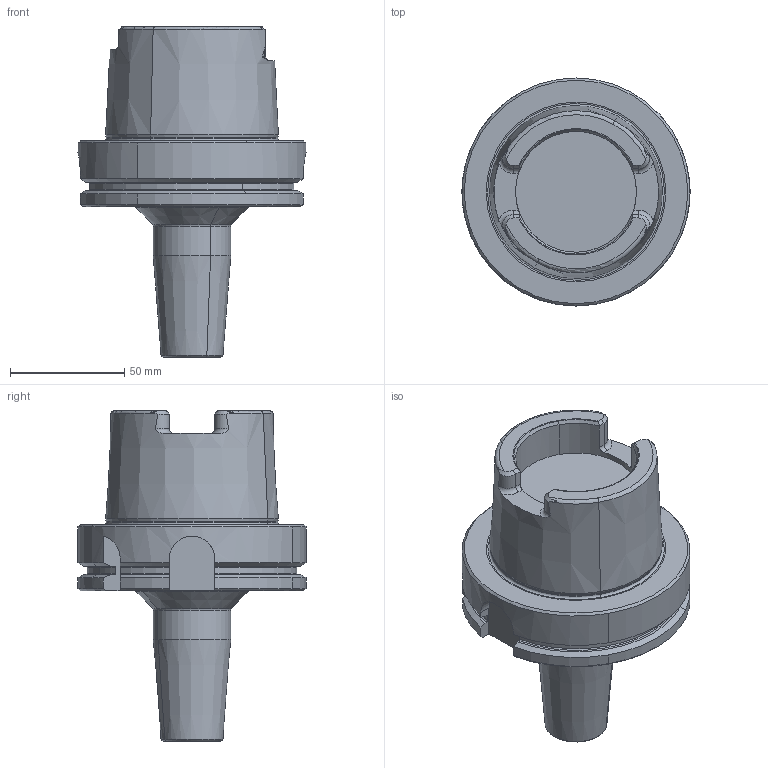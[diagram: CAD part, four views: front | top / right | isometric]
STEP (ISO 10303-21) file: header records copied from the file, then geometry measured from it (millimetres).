
FILE_DESCRIPTION(('CATIA V5 STEP','CAx-IF Rec.Pracs.--- Model Styling and Organization---1.2---2011-12-15'),'2;1');
FILE_NAME('\\nas01\drv1\utils\eitdev\rte\eit\transmagicconvert\db\out\4504215 L.stp','2014-04-03T08:24:23+00:00',('none'),('none'),'CATIA Version 5 Release 21 SP 5 (IN-10)','CATIA V5 STEP AP214','none');
FILE_SCHEMA(('AUTOMOTIVE_DESIGN { 1 0 10303 214 1 1 1 1 }'));
Length unit declared in the file: millimetre
Products named in the file (1): 60975515_0 Holder-Tool HSK A 100 SRKIN 14X 95
Bounding box: 100 x 100 x 145 mm (x, y, z)
Volume: 440731.1 mm3; surface area: 44970.4 mm2
Topology: 1 solids, 1 shells, 137 faces, 350 edges, 218 vertices
Faces by surface type: plane 37, cone 35, cylinder 33, torus 32
Entity records: 4157 total; most frequent: CARTESIAN_POINT 1216, ORIENTED_EDGE 700, DIRECTION 439, EDGE_CURVE 350, AXIS2_PLACEMENT_3D 241, VERTEX_POINT 218, CIRCLE 159, EDGE_LOOP 140
